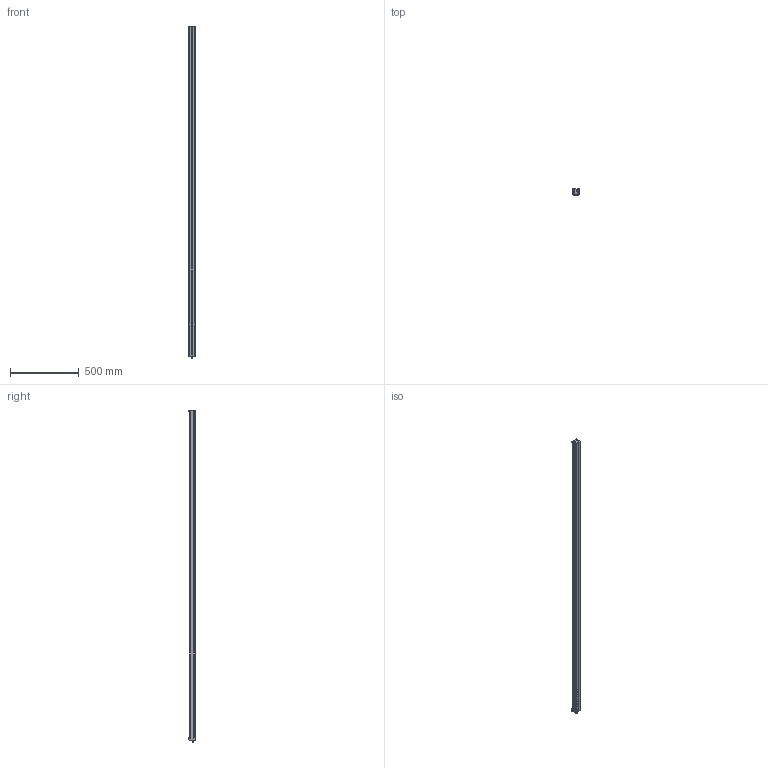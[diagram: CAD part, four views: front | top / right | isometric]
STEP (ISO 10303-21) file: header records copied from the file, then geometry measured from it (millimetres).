
FILE_DESCRIPTION (( 'STEP AP214' ), '1' );
FILE_NAME ('EBAR-HPS-2375-xxx-UN_CLIENT.STEP', '2025-11-18T13:11:37', ( '' ), ( '' ), 'SwSTEP 2.0', 'SolidWorks 2025', '' );
FILE_SCHEMA (( 'AUTOMOTIVE_DESIGN' ));
Length unit declared in the file: millimetre
Products named in the file (3): M4 T-Slot Nut; EBAR-HPS-xxx-xxx-xx_CLIENT - T-Power_2375; EBAR-HPS-2375-xxx-UN_CLIENT
Assembly tree (37 placements, depth 2):
  EBAR-HPS-2375-xxx-UN_CLIENT
    EBAR-HPS-xxx-xxx-xx_CLIENT - T-Power_2375
    M4 T-Slot Nut  x36
Bounding box: 47.63 x 45 x 2420.06 mm (x, y, z)
Volume: 4081827.5 mm3; surface area: 580957.2 mm2
Topology: 37 solids, 37 shells, 1424 faces, 3688 edges, 2428 vertices
Faces by surface type: plane 799, cylinder 371, bspline 140, torus 62, sphere 40, cone 12
Entity records: 29649 total; most frequent: CARTESIAN_POINT 10335, ORIENTED_EDGE 4138, DIRECTION 3640, EDGE_CURVE 2069, VERTEX_POINT 1343, AXIS2_PLACEMENT_3D 1252, LINE 1136, VECTOR 1136
